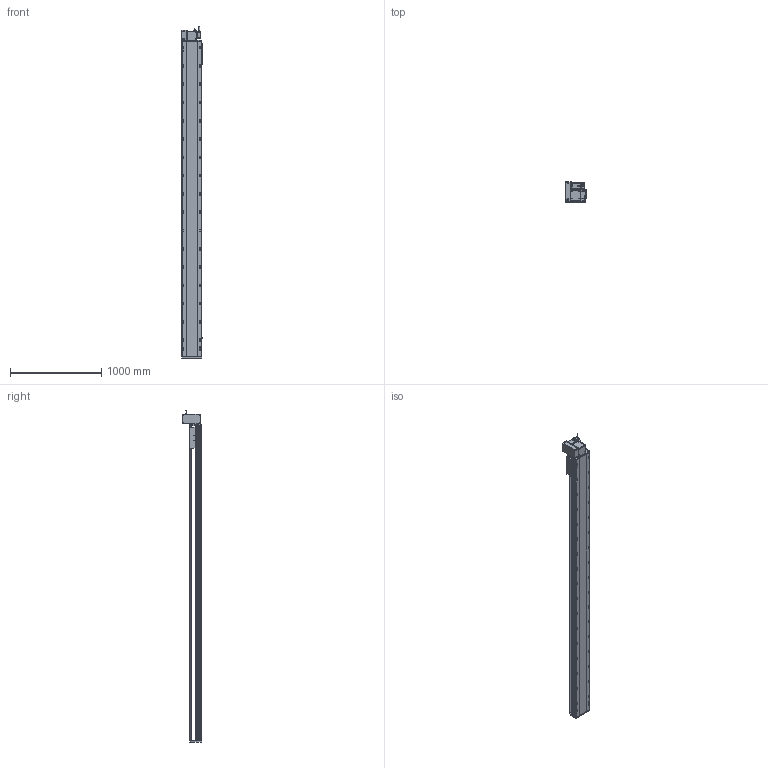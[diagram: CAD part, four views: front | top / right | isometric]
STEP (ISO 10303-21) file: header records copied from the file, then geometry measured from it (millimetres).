
FILE_DESCRIPTION (( 'STEP AP214' ), '1' );
FILE_NAME ('RTB22S-XX-3100-LW-M75-C4.STEP', '2025-12-12T07:06:15', ( '' ), ( '' ), 'SwSTEP 2.0', 'SolidWorks 2018', '' );
FILE_SCHEMA (( 'AUTOMOTIVE_DESIGN' ));
Length unit declared in the file: millimetre
Products named in the file (14): RTH22-GY-013外置感应片^RTB22S-XX-XX-LW-M75-C4; RTB22S-LW-々湍釱蚾饜^RTB22S-XX-XX-LW-M75-C4; RTB22S-GY-008-M75--萇儂啣^RTB22S-LW-々湍釱蚾饜_RTB22S-XX-XX-LW-M75-C4; RTB22S-L-004賑釱^RTB22S-XX-XX-LW-M75-C4; RTB22S-GY-018P^RTB22S-LW-々湍釱蚾饜_RTB22S-XX-XX-LW-M75-C4; RTB22S-L-011菁釱^RTB22S-XX-XX-LW-M75-C4; 750W萇儂^RTB22S-XX-XX-LW-M75-C4; RTB22S-GY-007奻裔^RTB22S-XX-XX-LW-M75-C4; RTB22S-XX-3100-LW-M75-C4; RTB22S-GY-014--々湍釱^RTB22S-LW-々湍釱蚾饜_RTB22S-XX-XX-LW-M75-C4; OMRON EE-SX672 传感器^RTB22S-XX-XX-LW-M75-C4; RTB22S-GY-001耜裔^RTB22S-XX-XX-LW-M75-C4; RTB22S-GY-017P^RTB22S-LW-々湍釱蚾饜_RTB22S-XX-XX-LW-M75-C4; RTB22S-GY-005P^RTB22S-LW-々湍釱蚾饜_RTB22S-XX-XX-LW-M75-C4
Assembly tree (16 placements, depth 3):
  RTB22S-XX-3100-LW-M75-C4
    RTB22S-L-011菁釱^RTB22S-XX-XX-LW-M75-C4
    RTB22S-GY-001耜裔^RTB22S-XX-XX-LW-M75-C4
    750W萇儂^RTB22S-XX-XX-LW-M75-C4
    RTB22S-GY-007奻裔^RTB22S-XX-XX-LW-M75-C4
    RTB22S-L-004賑釱^RTB22S-XX-XX-LW-M75-C4
    RTH22-GY-013外置感应片^RTB22S-XX-XX-LW-M75-C4
    OMRON EE-SX672 传感器^RTB22S-XX-XX-LW-M75-C4  x3
    RTB22S-LW-々湍釱蚾饜^RTB22S-XX-XX-LW-M75-C4
      RTB22S-GY-014--々湍釱^RTB22S-LW-々湍釱蚾饜_RTB22S-XX-XX-LW-M75-C4
      RTB22S-GY-017P^RTB22S-LW-々湍釱蚾饜_RTB22S-XX-XX-LW-M75-C4  x2
      RTB22S-GY-005P^RTB22S-LW-々湍釱蚾饜_RTB22S-XX-XX-LW-M75-C4
      RTB22S-GY-008-M75--萇儂啣^RTB22S-LW-々湍釱蚾饜_RTB22S-XX-XX-LW-M75-C4
      RTB22S-GY-018P^RTB22S-LW-々湍釱蚾饜_RTB22S-XX-XX-LW-M75-C4
Bounding box: 238.5 x 215.5 x 3632.2 mm (x, y, z)
Volume: 45752564 mm3; surface area: 4663314.6 mm2
Topology: 15 solids, 15 shells, 2163 faces, 5886 edges, 3752 vertices
Faces by surface type: plane 935, cylinder 742, bspline 296, cone 178, sphere 8, torus 4
Entity records: 59348 total; most frequent: CARTESIAN_POINT 16652, ORIENTED_EDGE 8480, DIRECTION 8334, EDGE_CURVE 4240, AXIS2_PLACEMENT_3D 3006, VERTEX_POINT 2756, VECTOR 2322, LINE 2322
